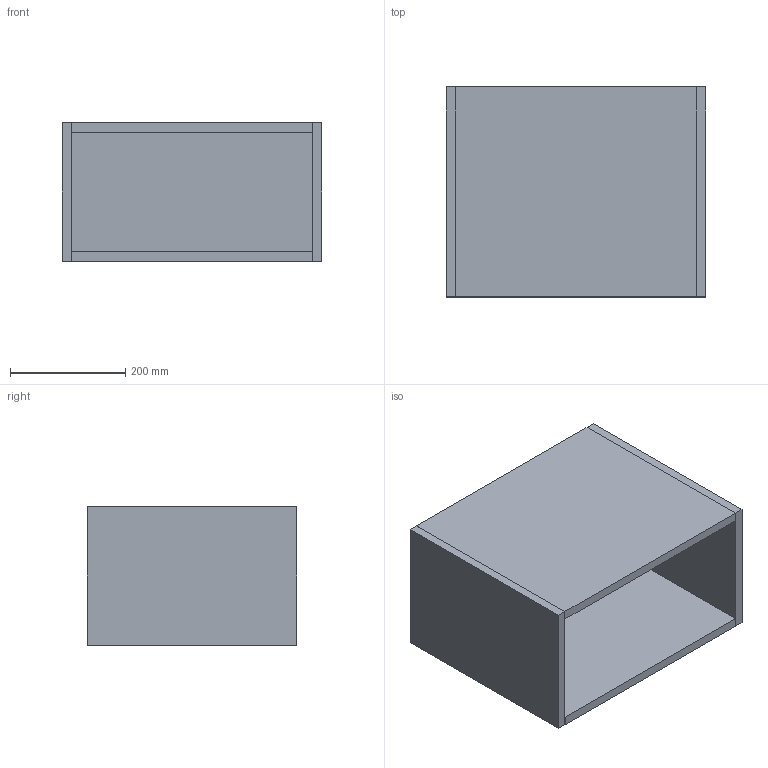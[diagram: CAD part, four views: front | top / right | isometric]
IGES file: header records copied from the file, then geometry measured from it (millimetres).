
Start section: Data from Parasolid IGES Translator 19.0.9, Copyright(c) 2006 Siemens PL M Software. All Rights Reserved.
Global section: file name: noorth-SI-H 24 D 38,8 W 45_8264.igs; native system: By Siemens PLM Incorporated; preprocessor: XPlus GENERIC/IGES 19.0.9; author: Noname; organization: Noname; date: 20200530.105115; units: metre
Bounding box: 450.01 x 364.06 x 240 mm (x, y, z)
Volume: 7914948.2 mm3; surface area: 1224519.3 mm2
Topology: 5 solids, 5 shells, 30 faces, 60 edges, 40 vertices
Faces by surface type: plane 30
